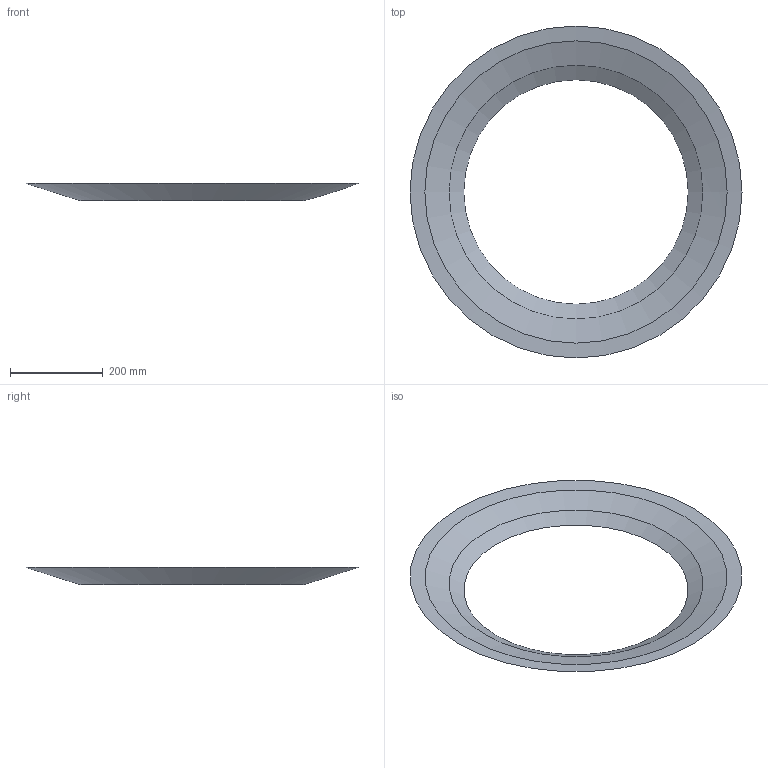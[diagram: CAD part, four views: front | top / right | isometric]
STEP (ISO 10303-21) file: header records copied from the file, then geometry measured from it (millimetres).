
FILE_DESCRIPTION(('Open CASCADE Model'),'2;1');
FILE_NAME('Open CASCADE Shape Model','2026-09-07T11:14:05',('Author'),( 'Open CASCADE'),'Open CASCADE STEP processor 7.9','Open CASCADE 7.9' ,'Unknown');
FILE_SCHEMA(('AUTOMOTIVE_DESIGN { 1 0 10303 214 1 1 1 1 }'));
Length unit declared in the file: millimetre
Products named in the file (1): Open CASCADE STEP translator 7.9 4
Bounding box: 716 x 716 x 36.76 mm (x, y, z)
Volume: 1342250.3 mm3; surface area: 460521 mm2
Topology: 1 solids, 1 shells, 4 faces, 8 edges, 4 vertices
Faces by surface type: cone 2, sphere 2
Entity records: 224 total; most frequent: DIRECTION 40, CARTESIAN_POINT 33, LINE 18, VECTOR 18, ORIENTED_EDGE 16, PCURVE 16, DEFINITIONAL_REPRESENTATION 16, AXIS2_PLACEMENT_3D 11
